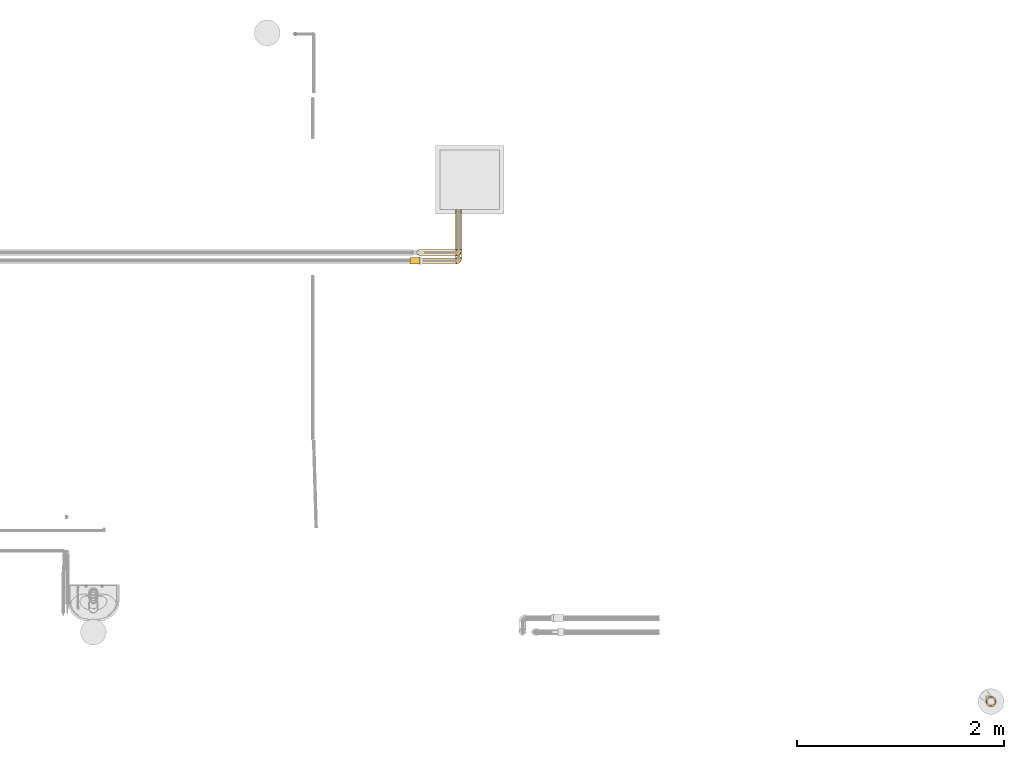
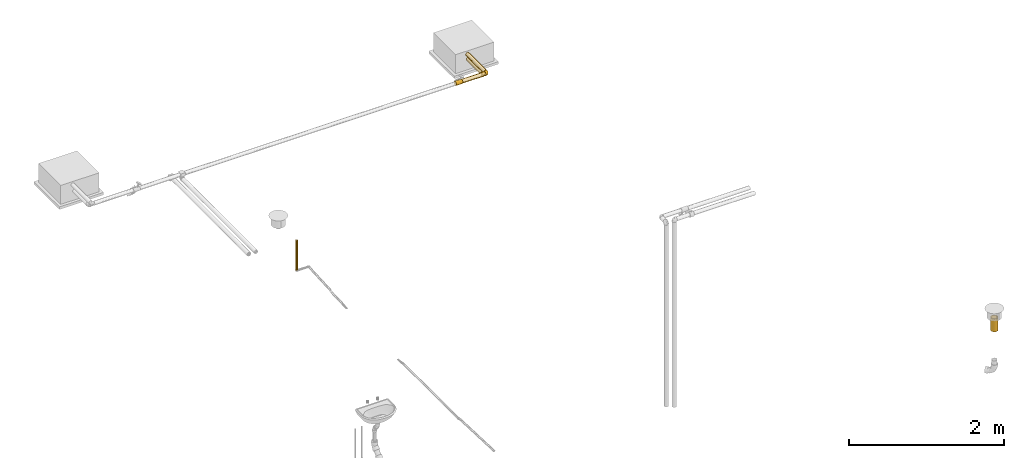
# One storey, part 5 of 108: 9 coverings.
"""IFC2X3 building model written with IfcOpenShell, lengths in millimetres."""

from ifc_helpers import new_model, entity, si_unit, converted_unit, derived_unit, direction, frame, origin_with_axes, origin_2d_with_axis, place, context, subcontext, project, spatial, hollow_circle, extrude, open_shell, surface_model, source, transform, mapped, element, save


model = new_model("IFC2X3")

# Units and contexts
model_context = context("Model", 3, precision=0.01, world=frame((0.0, 4.29681676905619e-09, 0.0)), true_north=direction((4.01073788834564e-13, 1.0)))
plan_context = context("Plan", 3, precision=0.01, world=frame((0.0, 4.29681676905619e-09, 0.0)), true_north=direction((4.01073788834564e-13, 1.0)))
body_context = subcontext(model_context, "Body", "Model", "MODEL_VIEW")
ifc_project = project(units=[converted_unit("PLANEANGLEUNIT", "DEGREE", entity("IfcPositiveLengthMeasure", 0.0174532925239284), si_unit("PLANEANGLEUNIT", "RADIAN"), dimensions=[0, 0, 0, 0, 0, 0, 0]), si_unit("AREAUNIT", "SQUARE_METRE"), si_unit("LENGTHUNIT", "METRE", prefix="MILLI"), si_unit("MASSUNIT", "GRAM", prefix="KILO"), si_unit("POWERUNIT", "WATT"), si_unit("PRESSUREUNIT", "PASCAL", prefix="KILO"), si_unit("FORCEUNIT", "NEWTON", prefix="KILO"), si_unit("ELECTRICVOLTAGEUNIT", "VOLT"), si_unit("ELECTRICCURRENTUNIT", "AMPERE"), si_unit("THERMODYNAMICTEMPERATUREUNIT", "DEGREE_CELSIUS"), si_unit("TIMEUNIT", "SECOND"), si_unit("VOLUMEUNIT", "CUBIC_METRE"), derived_unit("LINEARVELOCITYUNIT", [(si_unit("LENGTHUNIT", "METRE"), 1), (si_unit("TIMEUNIT", "SECOND"), -1)]), derived_unit("VOLUMETRICFLOWRATEUNIT", [(si_unit("VOLUMEUNIT", "CUBIC_METRE"), 1), (si_unit("TIMEUNIT", "SECOND"), -1)]), derived_unit("THERMALTRANSMITTANCEUNIT", [(si_unit("POWERUNIT", "WATT"), 1), (si_unit("THERMODYNAMICTEMPERATUREUNIT", "KELVIN"), -1), (si_unit("AREAUNIT", "SQUARE_METRE"), -1)]), derived_unit("SOUNDPRESSUREUNIT", [(si_unit("PRESSUREUNIT", "PASCAL"), 1)])], contexts=[model_context, plan_context])

# Site, building, storey
site_placement = place(None, frame((0.0, -4.29681676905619e-09, 0.0), z_axis=(0.0, 0.0, 1.0), x_axis=(1.0, 0.0, 0.0)))
site = spatial("IfcSite", under=ifc_project, at=site_placement, CompositionType="ELEMENT")
building_placement = place(site_placement, frame((0.0, 4.29681676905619e-09, 0.0), z_axis=(0.0, 0.0, 1.0), x_axis=(1.0, 0.0, 0.0)))
building = spatial("IfcBuilding", under=site, at=building_placement, Name="mc-building", CompositionType="ELEMENT")
storey_placement = place(building_placement, frame((0.0, 0.0, 210200.0), z_axis=(0.0, 0.0, 1.0), x_axis=(1.0, 0.0, 0.0)))
storey = spatial("IfcBuildingStorey", under=building, at=storey_placement, Name="Nivå F - 0,7 m", CompositionType="ELEMENT", Elevation=210200.0)

# Coverings
shared_shape_1 = source(origin_with_axes(), body_context, "Body", "SweptSolid", [
    extrude(hollow_circle(Radius=28.0, WallThickness=18.0, at=origin_2d_with_axis()), frame((0.0, 0.0, 0.0), z_axis=(1.0, 0.0, 0.0), x_axis=(0.0, 1.0, 0.0)), (0.0, 0.0, 1.0), 373.2),
])
covering_1_placement = place(storey_placement, frame((342932.18344, 464010.27358, 2880.0), z_axis=(0.0, 0.0, 1.0), x_axis=(0.0, 1.0, 0.0)))
element("IfcCovering", 1, at=covering_1_placement, inside=storey, Name="BI10T - Cellegummi 18-32 mm kalde rør", PredefinedType="INSULATION", context=body_context, shape_type="MappedRepresentation", body=[
    mapped(shared_shape_1, transform((0.0, 0.0, 0.0), scale=1.0)),
])
shared_shape_2 = source(origin_with_axes(), body_context, "Body", "SurfaceModel", [
    surface_model("IfcShellBasedSurfaceModel", [(-7.87022, 26.8, 30.39769), (0.0, 26.8, 31.4), (-15.23148, 26.8, 27.45837), (6.99065, 26.8, 30.61194), (13.6289, 26.8, 28.28804), (-26.63504, 26.8, -16.62933), (-21.62222, 26.8, 22.76927), (24.54569, 26.8, -19.58237), (19.57301, 26.8, -24.55315), (13.61941, 26.8, -28.29261), (-15.22502, 26.8, -27.46195), (-21.61679, 26.8, -22.77443), (-7.86298, 26.8, -30.39957), (0.0, 26.8, -31.4), (6.98317, 26.8, -30.61365), (-26.8, 26.63504, -16.62933), (-26.8, 21.62083, -22.77059), (-26.8, 15.22825, -27.46016), (-26.8, 7.86482, -30.39909), (-26.8, 0.0, -31.4), (-26.8, 26.63504, 16.62933), (-26.8, 0.0, 31.4), (-26.8, 21.62083, 22.77059), (-26.8, 7.86482, 30.39909), (-26.8, 15.22825, 27.46016), (-26.8, -8.12692, -30.33007), (-26.8, -15.7, -27.1932), (-26.8, -30.33007, -8.12692), (-26.8, -27.1932, -15.7), (-26.8, -22.20315, -22.20315), (-26.8, -31.4, 0.0), (-26.8, -22.20315, 22.20315), (-26.8, -15.7, 27.1932), (-26.8, -8.12692, 30.33007), (-26.8, -30.33007, 8.12692), (-26.8, -27.1932, 15.7), (-26.68336, 26.68336, 16.62933), (-26.68336, 26.68336, -16.62933), (-26.63504, 26.8, 16.62933), (-20.98338, 20.98209, -25.31794), (-15.53682, 19.99394, -28.28261), (-20.29306, 14.65966, -28.57075), (-13.68199, 13.68199, -30.29728), (-13.4, 3.59052, -31.4), (-24.81877, 23.57843, -21.35728), (-23.9708, 25.32448, -20.70189), (-3.59052, 13.4, -31.4), (21.01064, -4.28263, -8.50513), (27.85021, 12.71364, -10.37505), (26.96979, 4.52782, 0.0), (-17.53236, -4.99583, -30.75762), (-11.01672, -2.51353, -30.72144), (-3.12198, -11.94459, -25.2931), (-6.82273, -20.89661, -19.11511), (-14.9163, -17.55059, -24.9113), (-11.94566, -9.06155, -29.00982), (-20.05963, -11.42655, -29.00982), (13.04245, 9.33765, -26.59004), (15.90764, 18.52889, -26.59004), (20.64838, 14.57113, -22.20739), (-8.49526, 8.49526, -31.4), (-2.1777, 4.82876, -30.78183), (-1.37231, 21.67848, -31.4), (18.8999, -3.45798, -14.19353), (-9.95855, -28.34424, -5.80541), (-12.28416, -27.08902, -12.01626), (30.61194, 26.8, -6.99065), (29.14235, 15.45001, 0.0), (-17.70901, -24.10591, -19.11511), (11.19472, -10.994, -16.37704), (15.69471, -2.3705, -19.33199), (3.92402, 8.13201, -30.03703), (9.19037, 17.52431, -29.63944), (28.28804, 26.8, -13.6289), (25.61026, 16.65004, -16.71073), (4.60724, -3.31916, -26.58119), (-2.12413, -1.85447, -29.40457), (18.41545, 5.80905, -21.32233), (22.09401, 5.3703, -16.71073), (14.33363, -12.18809, -9.66691), (-2.58099, -23.25739, -12.49127), (0.37251, -23.7646, -7.02892), (6.44521, -18.38099, -11.30514), (9.81792, -17.81907, -5.46272), (14.35361, -14.35361, 0.0), (20.6617, -4.9129, 0.0), (-15.45001, -29.14235, 0.0), (2.68782, -15.28972, -19.52493), (8.11745, -7.57536, -22.20739), (-21.67848, 1.37231, -31.4), (12.3209, 1.00206, -24.15586), (8.23919, 3.39793, -27.4004), (31.4, 26.8, 0.0), (-4.52782, -26.96979, 0.0), (4.9129, -20.6617, 0.0), (-16.70169, -10.67968, 29.00982), (-9.96828, -28.3124, 5.97969), (8.84436, -16.89683, 10.50422), (21.02303, -4.26539, 8.5016), (20.65743, 14.57231, 22.19892), (25.61706, 16.6537, 16.7012), (24.55315, 26.8, 19.57301), (-9.05385, -15.54703, 24.9113), (-13.76902, -23.2425, 19.11511), (0.34475, -17.81223, 18.43111), (13.05424, 9.34082, 26.58405), (15.91783, 18.53136, 26.58405), (9.1991, 17.52373, 29.63644), (15.01213, -7.31228, 15.75383), (-14.20524, -3.60644, 30.79947), (-13.4, 3.59052, 31.4), (-20.1, 1.79526, 31.4), (-1.37231, 21.67848, 31.4), (-16.865, -28.61257, 10.76741), (-18.72321, -18.39914, 24.9113), (1.94012, -23.19265, 5.77128), (27.85447, 12.71812, 10.36645), (0.58014, -8.0947, 26.03466), (-9.97946, -7.68007, 29.193), (22.1034, 5.37679, 16.7012), (19.58237, 26.8, 24.54569), (28.29261, 26.8, 13.61941), (30.61365, 26.8, 6.98317), (-8.90885, -0.30109, 30.88309), (-2.9944, 3.369, 30.69802), (-3.59052, 13.4, 31.4), (-8.49526, 8.49526, 31.4), (16.45957, 3.77155, 22.19916), (3.92635, 8.12106, 30.03469), (-20.62637, -5.33624, 30.83614), (8.13659, -7.56798, 22.19892), (6.32115, -0.14196, 27.07957), (-6.5724, -25.21519, 12.01626), (1.04359, -13.09156, 22.55297), (-3.99576, -3.53267, 29.35415), (-25.32462, 23.97157, 20.70103), (-23.57831, 24.81837, 21.35761), (-13.6818, 13.68181, 30.29735), (-19.99475, 15.53567, 28.28289), (-20.98316, 20.98231, 25.31794), (-14.66031, 20.29357, 28.57039)], [open_shell([[[0, 1, 2]], [[1, 3, 4]], [[2, 5, 6]], [[7, 8, 9]], [[5, 10, 11]], [[10, 5, 12]], [[5, 13, 12]], [[13, 5, 14]], [[5, 9, 14]], [[15, 16, 17]], [[17, 18, 19]], [[15, 17, 20]], [[21, 17, 19]], [[22, 20, 21]], [[22, 23, 24]], [[23, 22, 21]], [[20, 17, 21]], [[19, 25, 21]], [[25, 26, 27]], [[28, 27, 26]], [[28, 26, 29]], [[25, 27, 30]], [[25, 31, 32]], [[33, 21, 32]], [[31, 34, 35]], [[34, 31, 30]], [[30, 31, 25]], [[32, 21, 25]], [[15, 20, 36]], [[37, 15, 36]], [[38, 5, 36]], [[37, 36, 5]], [[39, 40, 41]], [[18, 41, 42]], [[41, 40, 42]], [[16, 39, 17]], [[19, 18, 43]], [[43, 18, 42]], [[12, 42, 40]], [[15, 37, 44]], [[39, 41, 17]], [[5, 11, 45]], [[39, 45, 11]], [[5, 45, 37]], [[40, 39, 10]], [[46, 43, 42]], [[42, 12, 46]], [[12, 13, 46]], [[10, 39, 11]], [[15, 44, 16]], [[41, 18, 17]], [[45, 44, 37]], [[39, 44, 45]], [[12, 40, 10]], [[44, 39, 16]], [[47, 48, 49]], [[50, 43, 51]], [[52, 53, 54]], [[55, 56, 50]], [[57, 58, 59]], [[60, 61, 51]], [[62, 13, 14]], [[48, 47, 63]], [[64, 27, 65]], [[48, 66, 67]], [[68, 28, 29]], [[26, 56, 54]], [[26, 54, 29]], [[28, 68, 65]], [[56, 26, 25]], [[69, 70, 63]], [[71, 46, 72]], [[62, 14, 72]], [[7, 73, 74]], [[59, 8, 7]], [[72, 46, 62]], [[72, 14, 9]], [[58, 72, 9]], [[75, 52, 76]], [[72, 57, 71]], [[77, 78, 70]], [[77, 59, 78]], [[69, 63, 79]], [[64, 80, 81]], [[48, 73, 66]], [[49, 48, 67]], [[78, 74, 48]], [[28, 65, 27]], [[74, 59, 7]], [[82, 83, 81]], [[8, 58, 9]], [[80, 82, 81]], [[84, 47, 85]], [[27, 64, 86]], [[69, 87, 88]], [[51, 61, 76]], [[52, 54, 55]], [[68, 54, 53]], [[25, 19, 89]], [[57, 90, 91]], [[71, 76, 61]], [[66, 92, 67]], [[48, 74, 73]], [[59, 74, 78]], [[59, 58, 8]], [[72, 58, 57]], [[76, 52, 55]], [[52, 88, 87]], [[51, 55, 50]], [[90, 75, 91]], [[86, 64, 93]], [[86, 30, 27]], [[83, 84, 94]], [[94, 93, 81]], [[64, 81, 93]], [[79, 83, 82]], [[94, 81, 83]], [[80, 64, 65]], [[65, 53, 80]], [[87, 80, 53]], [[69, 79, 82]], [[79, 47, 84]], [[82, 80, 87]], [[70, 69, 88]], [[82, 87, 69]], [[52, 87, 53]], [[90, 70, 88]], [[63, 70, 78]], [[75, 90, 88]], [[77, 57, 59]], [[52, 75, 88]], [[91, 76, 71]], [[48, 63, 78]], [[63, 47, 79]], [[70, 90, 77]], [[57, 77, 90]], [[76, 91, 75]], [[71, 61, 46]], [[71, 57, 91]], [[54, 68, 29]], [[65, 68, 53]], [[50, 25, 89]], [[54, 56, 55]], [[25, 50, 56]], [[43, 50, 89]], [[60, 51, 43]], [[76, 55, 51]], [[47, 49, 85]], [[84, 83, 79]], [[46, 61, 60]], [[32, 95, 33]], [[93, 96, 86]], [[97, 84, 98]], [[96, 34, 86]], [[99, 100, 101]], [[102, 103, 104]], [[105, 106, 107]], [[108, 104, 97]], [[109, 110, 111]], [[3, 112, 107]], [[113, 103, 35]], [[3, 1, 112]], [[31, 114, 32]], [[32, 114, 95]], [[4, 3, 107]], [[84, 97, 115]], [[98, 49, 116]], [[102, 117, 118]], [[119, 100, 99]], [[120, 99, 101]], [[34, 96, 113]], [[116, 121, 100]], [[116, 67, 122]], [[120, 4, 106]], [[109, 123, 110]], [[124, 125, 126]], [[127, 119, 99]], [[105, 107, 128]], [[107, 125, 128]], [[121, 116, 122]], [[35, 103, 31]], [[106, 99, 120]], [[98, 116, 119]], [[127, 99, 105]], [[98, 108, 97]], [[121, 101, 100]], [[98, 84, 85]], [[125, 107, 112]], [[95, 109, 129]], [[130, 131, 117]], [[131, 105, 128]], [[104, 103, 132]], [[114, 103, 102]], [[126, 123, 124]], [[131, 130, 127]], [[97, 104, 132]], [[133, 130, 117]], [[96, 115, 132]], [[98, 119, 108]], [[67, 116, 49]], [[67, 92, 122]], [[33, 129, 21]], [[116, 100, 119]], [[107, 106, 4]], [[99, 106, 105]], [[124, 131, 128]], [[123, 126, 110]], [[117, 131, 134]], [[34, 30, 86]], [[115, 96, 93]], [[96, 132, 113]], [[115, 93, 94]], [[132, 115, 97]], [[103, 113, 132]], [[35, 34, 113]], [[129, 109, 111]], [[118, 109, 95]], [[127, 108, 119]], [[84, 115, 94]], [[104, 108, 130]], [[21, 129, 111]], [[95, 129, 33]], [[131, 127, 105]], [[108, 127, 130]], [[118, 117, 134]], [[133, 102, 104]], [[103, 114, 31]], [[95, 114, 102]], [[102, 118, 95]], [[123, 118, 134]], [[118, 123, 109]], [[123, 134, 124]], [[131, 124, 134]], [[125, 124, 128]], [[102, 133, 117]], [[104, 130, 133]], [[85, 49, 98]], [[23, 21, 110]], [[135, 136, 36]], [[23, 137, 138]], [[23, 110, 137]], [[139, 22, 24]], [[139, 135, 22]], [[22, 135, 20]], [[137, 110, 125]], [[20, 135, 36]], [[125, 1, 0]], [[139, 140, 2]], [[0, 140, 137]], [[140, 139, 138]], [[135, 139, 136]], [[6, 136, 139]], [[38, 36, 136]], [[6, 139, 2]], [[23, 138, 24]], [[140, 0, 2]], [[140, 138, 137]], [[125, 0, 137]], [[38, 136, 6]], [[138, 139, 24]], [[4, 120, 121]], [[1, 4, 5]], [[121, 120, 101]], [[4, 121, 5]], [[2, 1, 5]], [[6, 5, 38]], [[92, 121, 122]], [[5, 92, 66]], [[73, 5, 66]], [[73, 7, 5]], [[9, 5, 7]], [[92, 5, 121]]])]),
])
for number, where, z_axis, x_axis in (
    (2, (342930.98344, 463903.47358, 2948.0), (0.0, 0.0, 1.0), (1.0, 0.0, 0.0)),
    (3, (342932.18344, 463983.47358, 2880.0), (0.0, 0.0, 1.0), (1.0, 0.0, 0.0)),
):
    element("IfcCovering", number, at=place(storey_placement, frame(where, z_axis=z_axis, x_axis=x_axis)), inside=storey, Name="BI10T - Cellegummi 18-32 mm kalde rør", PredefinedType="INSULATION", context=body_context, shape_type="MappedRepresentation", body=[
        mapped(shared_shape_2, transform((0.0, 0.0, 0.0), scale=1.0)),
    ])
shared_shape_3 = source(origin_with_axes(), body_context, "Body", "SweptSolid", [
    extrude(hollow_circle(Radius=28.0, WallThickness=18.0, at=origin_2d_with_axis()), frame((0.0, 0.0, 0.0), z_axis=(1.0, 0.0, 0.0), x_axis=(0.0, 1.0, 0.0)), (0.0, 0.0, 1.0), 468.2),
])
covering_2_placement = place(storey_placement, frame((342930.98344, 463930.27358, 2948.0), z_axis=(0.0, 0.0, 1.0), x_axis=(0.0, 1.0, 0.0)))
element("IfcCovering", 4, at=covering_2_placement, inside=storey, Name="BI10T - Cellegummi 18-32 mm kalde rør", PredefinedType="INSULATION", context=body_context, shape_type="MappedRepresentation", body=[
    mapped(shared_shape_3, transform((0.0, 0.0, 0.0), scale=1.0)),
])
shared_shape_4 = source(origin_with_axes(), body_context, "Body", "SweptSolid", [
    extrude(hollow_circle(Radius=28.0, WallThickness=18.0, at=origin_2d_with_axis()), frame((0.0, 0.0, 0.0), z_axis=(1.0, 0.0, 0.0), x_axis=(0.0, 1.0, 0.0)), (0.0, 0.0, 1.0), 361.9),
])
covering_3_placement = place(storey_placement, frame((342905.38344, 463983.47358, 2880.0), z_axis=(0.0, 0.0, 1.0), x_axis=(-1.0, 0.0, 0.0)))
element("IfcCovering", 5, at=covering_3_placement, inside=storey, Name="BI10T - Cellegummi 18-32 mm kalde rør", PredefinedType="INSULATION", context=body_context, shape_type="MappedRepresentation", body=[
    mapped(shared_shape_4, transform((0.0, 0.0, 0.0), scale=1.0)),
])
shared_shape_5 = source(origin_with_axes(), body_context, "Body", "SweptSolid", [
    extrude(hollow_circle(Radius=28.0, WallThickness=18.0, at=origin_2d_with_axis()), frame((0.0, 0.0, 0.0), z_axis=(1.0, 0.0, 0.0), x_axis=(0.0, 1.0, 0.0)), (0.0, 0.0, 1.0), 345.1),
])
covering_4_placement = place(storey_placement, frame((342559.06258, 463903.47358, 2948.0), z_axis=(0.0, 0.0, 1.0), x_axis=(1.0, 0.0, 0.0)))
element("IfcCovering", 6, at=covering_4_placement, inside=storey, Name="BI10T - Cellegummi 18-32 mm kalde rør", PredefinedType="INSULATION", context=body_context, shape_type="MappedRepresentation", body=[
    mapped(shared_shape_5, transform((0.0, 0.0, 0.0), scale=1.0)),
])
shared_shape_6 = source(origin_with_axes(), body_context, "Body", "SurfaceModel", [
    surface_model("IfcShellBasedSurfaceModel", [(48.5, 31.73066, -8.50221), (48.5, 8.50221, -31.73066), (48.5, 16.425, -28.44894), (48.5, 23.22846, -23.22846), (48.5, -23.22846, -23.22846), (48.5, -28.44894, 16.425), (48.5, 28.44894, -16.425), (48.5, -8.50221, -31.73066), (48.5, -16.425, -28.44894), (48.5, 0.0, -32.85), (48.5, -31.73066, -8.50221), (48.5, -28.44894, -16.425), (48.5, 32.85, 0.0), (48.5, 31.73066, 8.50221), (48.5, 28.44894, 16.425), (48.5, 23.22846, 23.22846), (48.5, -8.50221, 31.73066), (48.5, 8.50221, 31.73066), (48.5, 0.0, 32.85), (48.5, 16.425, 28.44894), (48.5, -32.85, 0.0), (48.5, -31.73066, 8.50221), (48.5, -23.22846, 23.22846), (48.5, -16.425, 28.44894), (-48.5, 23.22846, 23.22846), (-48.5, 0.0, 32.85), (-48.5, 8.50221, 31.73066), (-48.5, 16.425, 28.44894), (-48.5, 28.44894, 16.425), (-48.5, 31.73066, 8.50221), (-48.5, -8.50221, 31.73066), (-48.5, -23.22846, 23.22846), (-48.5, -16.425, 28.44894), (-48.5, -28.44894, 16.425), (-48.5, -32.85, 0.0), (-48.5, -31.73066, 8.50221), (-48.5, -31.73066, -8.50221), (-48.5, 31.73066, -8.50221), (-48.5, -23.22846, -23.22846), (-48.5, 23.22846, -23.22846), (-48.5, 28.44894, -16.425), (-48.5, 16.425, -28.44894), (-48.5, 8.50221, -31.73066), (-48.5, 0.0, -32.85), (-48.5, -28.44894, -16.425), (-48.5, -8.50221, -31.73066), (-48.5, -16.425, -28.44894), (-48.5, 32.85, 0.0)], [open_shell([[[0, 1, 2]], [[0, 2, 3]], [[4, 1, 5]], [[0, 3, 6]], [[1, 0, 5]], [[7, 4, 8]], [[4, 7, 9]], [[4, 10, 11]], [[4, 9, 1]], [[4, 5, 10]], [[0, 12, 13]], [[13, 14, 15]], [[16, 13, 15]], [[17, 18, 15]], [[17, 15, 19]], [[16, 15, 18]], [[20, 5, 21]], [[10, 5, 20]], [[22, 16, 23]], [[22, 5, 13]], [[16, 22, 13]], [[5, 0, 13]], [[24, 25, 26]], [[24, 26, 27]], [[24, 28, 29]], [[25, 24, 30]], [[30, 24, 29]], [[30, 31, 32]], [[30, 29, 31]], [[33, 34, 35]], [[31, 29, 33]], [[33, 36, 34]], [[33, 29, 37]], [[33, 37, 38]], [[39, 37, 40]], [[41, 42, 37]], [[41, 37, 39]], [[43, 37, 42]], [[36, 38, 44]], [[33, 38, 36]], [[38, 45, 46]], [[45, 38, 43]], [[37, 43, 38]], [[37, 29, 47]], [[13, 29, 28]], [[14, 28, 24]], [[47, 29, 12]], [[12, 29, 13]], [[28, 14, 13]], [[24, 15, 14]], [[19, 27, 26]], [[17, 26, 25]], [[15, 27, 19]], [[19, 26, 17]], [[25, 18, 17]], [[27, 15, 24]], [[16, 30, 32]], [[23, 32, 31]], [[25, 30, 18]], [[18, 30, 16]], [[32, 23, 16]], [[31, 22, 23]], [[5, 33, 35]], [[21, 35, 34]], [[22, 33, 5]], [[5, 35, 21]], [[34, 20, 21]], [[33, 22, 31]], [[10, 36, 44]], [[11, 44, 38]], [[34, 36, 20]], [[20, 36, 10]], [[44, 11, 10]], [[38, 4, 11]], [[8, 46, 45]], [[7, 45, 43]], [[4, 46, 8]], [[8, 45, 7]], [[43, 9, 7]], [[46, 4, 38]], [[1, 42, 41]], [[2, 41, 39]], [[43, 42, 9]], [[9, 42, 1]], [[41, 2, 1]], [[39, 3, 2]], [[6, 40, 37]], [[0, 37, 47]], [[3, 40, 6]], [[6, 37, 0]], [[47, 12, 0]], [[40, 3, 39]]])]),
])
covering_5_placement = place(storey_placement, frame((342510.56258, 463903.47358, 2948.0), z_axis=(0.0, 0.0, -1.0), x_axis=(1.0, 0.0, 0.0)))
element("IfcCovering", 7, at=covering_5_placement, inside=storey, Name="BI10T - Cellegummi 18-32 mm kalde rør", PredefinedType="INSULATION", context=body_context, shape_type="MappedRepresentation", body=[
    mapped(shared_shape_6, transform((0.0, 0.0, 0.0), scale=1.0)),
])
shared_shape_7 = source(origin_with_axes(), body_context, "Body", "SweptSolid", [
    extrude(hollow_circle(Radius=50.5, WallThickness=13.0, at=origin_2d_with_axis()), frame((0.0, 0.0, 0.0), z_axis=(1.0, 0.0, 0.0), x_axis=(0.0, 1.0, 0.0)), (0.0, 0.0, 1.0), 200.0),
])
covering_6_placement = place(storey_placement, frame((348065.41099, 459653.24188, -128.0), z_axis=(0.707106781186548, -0.707106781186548, 0.0), x_axis=(0.0, 0.0, -1.0)))
element("IfcCovering", 8, at=covering_6_placement, inside=storey, Name="BI17T - Cellegummi 13 mm SPV fett", PredefinedType="INSULATION", context=body_context, shape_type="MappedRepresentation", body=[
    mapped(shared_shape_7, transform((0.0, 0.0, 0.0), scale=1.0)),
])
shared_shape_8 = source(origin_with_axes(), body_context, "Body", "SweptSolid", [
    extrude(hollow_circle(Radius=16.0, WallThickness=10.0, at=origin_2d_with_axis()), frame((0.0, 0.0, 0.0), z_axis=(1.0, 0.0, 0.0), x_axis=(0.0, 1.0, 0.0)), (0.0, 0.0, 1.0), 468.0),
])
covering_7_placement = place(storey_placement, frame((341354.44567, 466090.75941, -936.073130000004), z_axis=(1.0, 0.0, 0.0), x_axis=(0.0, 0.0, 1.0)))
element("IfcCovering", 9, at=covering_7_placement, inside=storey, Name="BI10T - Cellegummi 18-32 mm kalde rør", PredefinedType="INSULATION", context=body_context, shape_type="MappedRepresentation", body=[
    mapped(shared_shape_8, transform((0.0, 0.0, 0.0), scale=1.0)),
])

save(model, "model.ifc")
